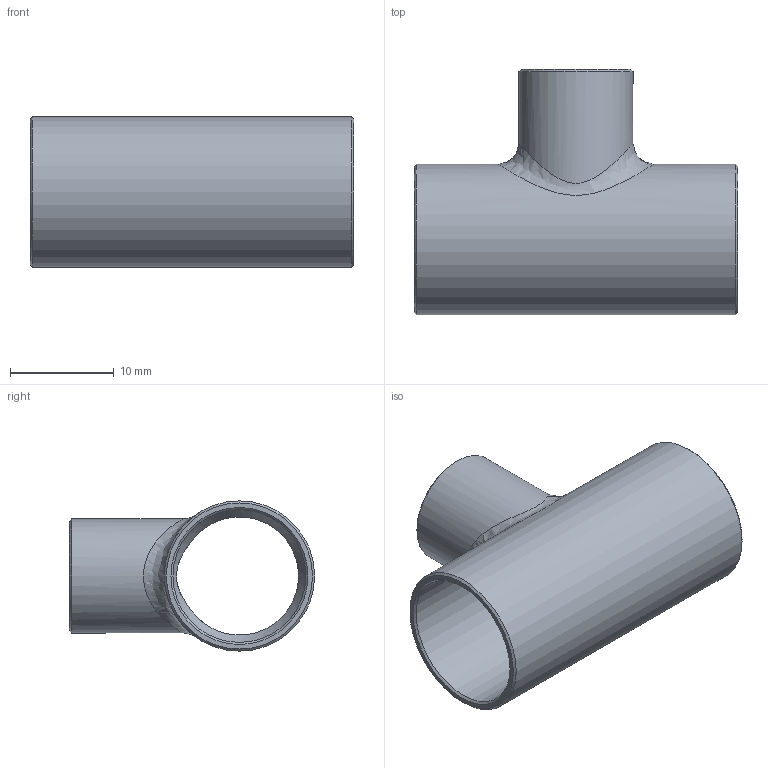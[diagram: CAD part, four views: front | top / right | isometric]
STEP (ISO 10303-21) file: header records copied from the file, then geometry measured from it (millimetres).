
FILE_DESCRIPTION((''),'2;1');
FILE_NAME('G:\SANHA-Ternat\Technik\Management\Bouwmaten + markeringen\z-maattekeningen 3D\29000s\29130123812_3d.stp','2017-07-31T15:32:53',('vdvijverd'),(''),'Autodesk Inventor 2009','Autodesk Inventor 2009','');
FILE_SCHEMA(('AUTOMOTIVE_DESIGN { 1 0 10303 214 1 1 1 1 }'));
Length unit declared in the file: millimetre
Products named in the file (1): 29130123812_3d
Bounding box: 31.2 x 23.65 x 14.5 mm (x, y, z)
Volume: 1555.8 mm3; surface area: 3220.1 mm2
Topology: 1 solids, 1 shells, 22 faces, 54 edges, 33 vertices
Faces by surface type: cone 8, cylinder 7, bspline 4, plane 3
Full cylindrical faces by diameter (mm): 9.645 x1, 11 x1, 12.82 x1, 14.5 x1
Entity records: 2031 total; most frequent: CARTESIAN_POINT 1600, DIRECTION 80, ORIENTED_EDGE 66, AXIS2_PLACEMENT_3D 40, EDGE_LOOP 40, EDGE_CURVE 33, VERTEX_POINT 27, FACE_OUTER_BOUND 22
